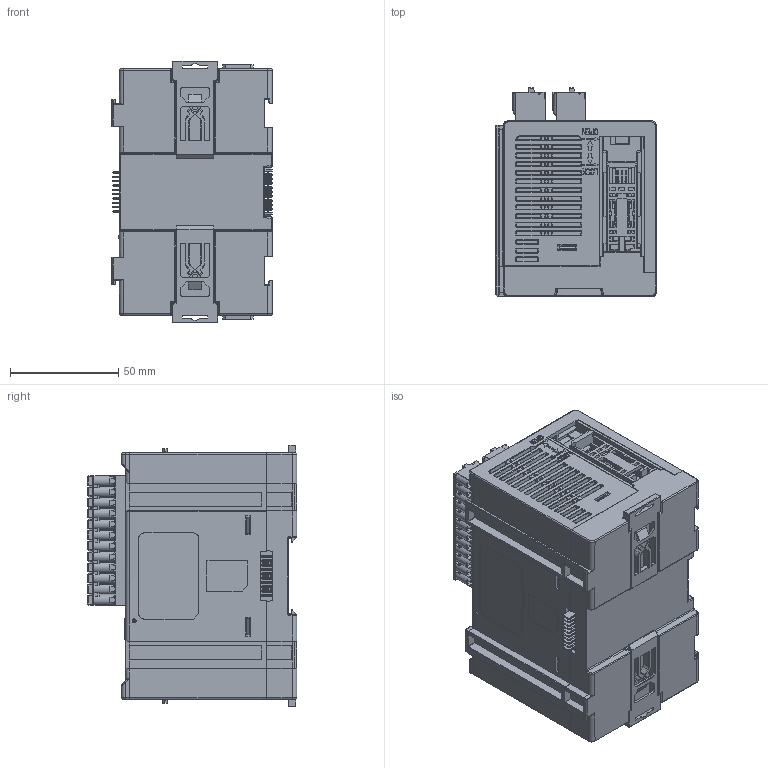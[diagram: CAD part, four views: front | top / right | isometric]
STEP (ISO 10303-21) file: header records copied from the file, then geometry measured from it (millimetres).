
FILE_DESCRIPTION((''),'2;1');
FILE_NAME('DTMN08','2021-03-02T',('BRAD.PENG'),(''),'PRO/ENGINEER BY PARAMETRIC TECHNOLOGY CORPORATION, 2012360','PRO/ENGINEER BY PARAMETRIC TECHNOLOGY CORPORATION, 2012360','');
FILE_SCHEMA(('CONFIG_CONTROL_DESIGN','GEOMETRIC_VALIDATION_PROPERTIES_MIM'));
Products named in the file (1): DTMN08
Bounding box: 74.2 x 96.85 x 120.8 mm (x, y, z)
Volume: 596890.1 mm3; surface area: 136559.3 mm2
Topology: 1 solids, 7 shells, 5602 faces, 15845 edges, 10222 vertices
Faces by surface type: plane 3930, cylinder 1184, bspline 215, cone 186, torus 50, sphere 37
Entity records: 250251 total; most frequent: CARTESIAN_POINT 50189, ORIENTED_EDGE 31616, DIRECTION 27265, PRESENTATION_STYLE_ASSIGNMENT 16951, STYLED_ITEM 16376, CURVE_STYLE 15808, EDGE_CURVE 15808, VECTOR 11863
